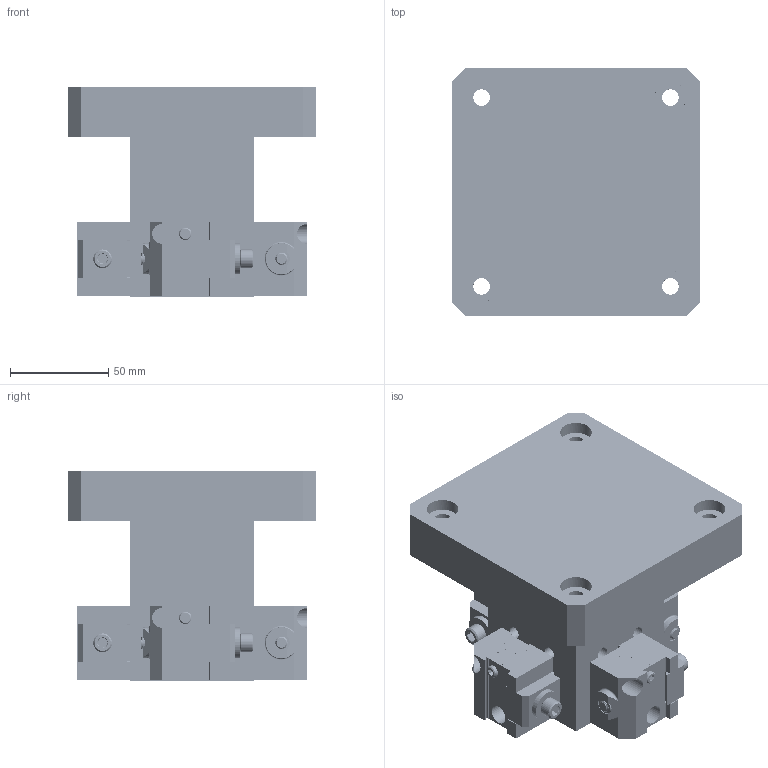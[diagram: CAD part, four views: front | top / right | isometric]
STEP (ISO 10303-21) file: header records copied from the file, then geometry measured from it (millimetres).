
FILE_DESCRIPTION (( 'STEP AP203' ), '1' );
FILE_NAME ('R96-D115T4.STEP', '2019-04-10T15:40:07', ( '' ), ( '' ), 'SwSTEP 2.0', 'SolidWorks 2018', '' );
FILE_SCHEMA (( 'CONFIG_CONTROL_DESIGN' ));
Length unit declared in the file: inch
Products named in the file (13): 91251A441_BLACK-OXIDE ALLOY STEEL SOCKET HEAD CAP SCREW_91251A441; LP250_NO THREADS ; R96-D115T4; CDS25; SLD25_SLD25; HW.0250.FW_DEFAULT; HW.73072_DEFAULT; HW.LCM110E01M; Product 1.1.stp; HW.01480; R96-T42.5-D1151.stp; D115_Owner''s Manual Explosion; D115-1
Assembly tree (27 placements, depth 3):
  R96-D115T4
    R96-T42.5-D1151.stp
      Product 1.1.stp
    D115_Owner''s Manual Explosion  x3
      D115-1
      LP250_NO THREADS 
      CDS25
      SLD25_SLD25
      HW.0250.FW_DEFAULT
      HW.73072_DEFAULT
      HW.LCM110E01M
      HW.01480
    HW.01480
    91251A441_BLACK-OXIDE ALLOY STEEL SOCKET HEAD CAP SCREW_91251A441  x2
    HW.LCM110E01M
    HW.73072_DEFAULT
    HW.0250.FW_DEFAULT
    CDS25
    LP250_NO THREADS   x3
    SLD25_SLD25
    D115-1
Bounding box: 125.73 x 125.73 x 106.68 mm (x, y, z)
Volume: 847403.7 mm3; surface area: 152553.3 mm2
Topology: 43 solids, 43 shells, 6158 faces, 16640 edges, 11010 vertices
Faces by surface type: plane 2972, bspline 1712, cylinder 1204, cone 238, torus 32
Entity records: 76730 total; most frequent: CARTESIAN_POINT 38314, ORIENTED_EDGE 8684, DIRECTION 5795, EDGE_CURVE 4342, VERTEX_POINT 2877, VECTOR 2599, LINE 2599, EDGE_LOOP 1785
